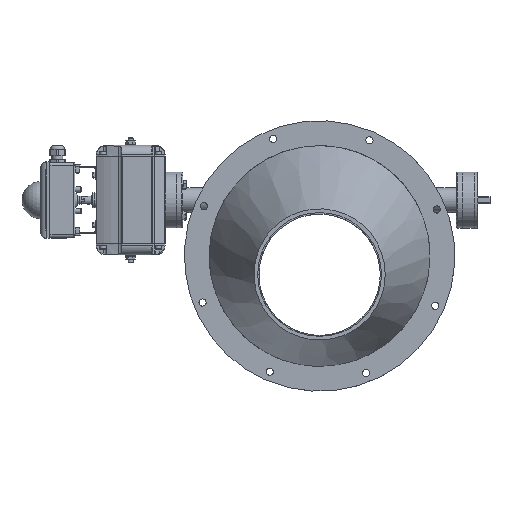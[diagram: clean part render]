
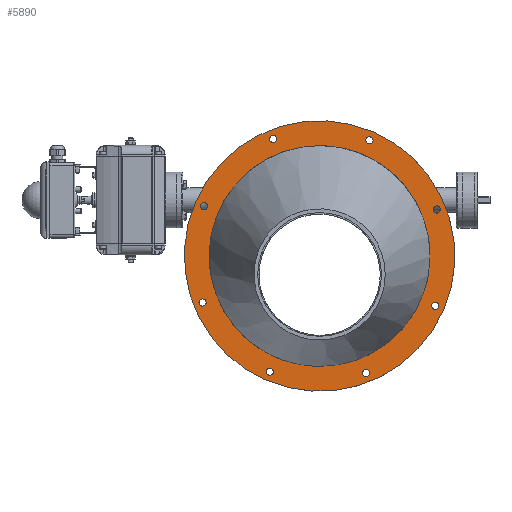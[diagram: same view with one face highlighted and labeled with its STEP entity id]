
A CAD part, top view. The second image highlights one B-rep face of the part: STEP entity #5890.
In plain terms, the highlighted planar face has unit normal (0, 0, 1) as drawn and (0, 0, -1) by its records, which use the part's own axes.
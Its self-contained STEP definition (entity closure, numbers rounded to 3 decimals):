
#5397=CARTESIAN_POINT('',(-5.727,-202.5,0.0));
#5398=VERTEX_POINT('',#5397);
#5399=CARTESIAN_POINT('',(0.023,-202.5,0.0));
#5400=DIRECTION('',(0.0,0.0,1.0));
#5401=DIRECTION('',(1.0,0.0,0.0));
#5402=AXIS2_PLACEMENT_3D('',#5399,#5400,#5401);
#5403=CIRCLE('',#5402,5.75);
#5404=EDGE_CURVE('',#5398,#5398,#5403,.T.);
#5446=CARTESIAN_POINT('',(137.455,-143.173,0.0));
#5447=VERTEX_POINT('',#5446);
#5448=CARTESIAN_POINT('',(143.205,-143.173,0.0));
#5449=DIRECTION('',(0.0,0.0,1.0));
#5450=DIRECTION('',(1.0,0.0,0.0));
#5451=AXIS2_PLACEMENT_3D('',#5448,#5449,#5450);
#5452=CIRCLE('',#5451,5.75);
#5453=EDGE_CURVE('',#5447,#5447,#5452,.T.);
#5495=CARTESIAN_POINT('',(196.75,0.023,0.0));
#5496=VERTEX_POINT('',#5495);
#5497=CARTESIAN_POINT('',(202.5,0.023,0.0));
#5498=DIRECTION('',(0.0,0.0,1.0));
#5499=DIRECTION('',(1.0,0.0,0.0));
#5500=AXIS2_PLACEMENT_3D('',#5497,#5498,#5499);
#5501=CIRCLE('',#5500,5.75);
#5502=EDGE_CURVE('',#5496,#5496,#5501,.T.);
#5544=CARTESIAN_POINT('',(137.423,143.205,0.0));
#5545=VERTEX_POINT('',#5544);
#5546=CARTESIAN_POINT('',(143.173,143.205,0.0));
#5547=DIRECTION('',(0.0,0.0,1.0));
#5548=DIRECTION('',(1.0,0.0,0.0));
#5549=AXIS2_PLACEMENT_3D('',#5546,#5547,#5548);
#5550=CIRCLE('',#5549,5.75);
#5551=EDGE_CURVE('',#5545,#5545,#5550,.T.);
#5593=CARTESIAN_POINT('',(-148.923,-143.205,0.0));
#5594=VERTEX_POINT('',#5593);
#5595=CARTESIAN_POINT('',(-143.173,-143.205,0.0));
#5596=DIRECTION('',(0.0,0.0,1.0));
#5597=DIRECTION('',(1.0,0.0,0.0));
#5598=AXIS2_PLACEMENT_3D('',#5595,#5596,#5597);
#5599=CIRCLE('',#5598,5.75);
#5600=EDGE_CURVE('',#5594,#5594,#5599,.T.);
#5642=CARTESIAN_POINT('',(-208.25,-0.023,0.0));
#5643=VERTEX_POINT('',#5642);
#5644=CARTESIAN_POINT('',(-202.5,-0.023,0.0));
#5645=DIRECTION('',(0.0,0.0,1.0));
#5646=DIRECTION('',(1.0,0.0,0.0));
#5647=AXIS2_PLACEMENT_3D('',#5644,#5645,#5646);
#5648=CIRCLE('',#5647,5.75);
#5649=EDGE_CURVE('',#5643,#5643,#5648,.T.);
#5691=CARTESIAN_POINT('',(-148.955,143.173,0.0));
#5692=VERTEX_POINT('',#5691);
#5693=CARTESIAN_POINT('',(-143.205,143.173,0.0));
#5694=DIRECTION('',(0.0,0.0,1.0));
#5695=DIRECTION('',(1.0,0.0,0.0));
#5696=AXIS2_PLACEMENT_3D('',#5693,#5694,#5695);
#5697=CIRCLE('',#5696,5.75);
#5698=EDGE_CURVE('',#5692,#5692,#5697,.T.);
#5740=CARTESIAN_POINT('',(-5.773,202.5,0.0));
#5741=VERTEX_POINT('',#5740);
#5742=CARTESIAN_POINT('',(-0.023,202.5,0.0));
#5743=DIRECTION('',(0.0,0.0,1.0));
#5744=DIRECTION('',(1.0,0.0,0.0));
#5745=AXIS2_PLACEMENT_3D('',#5742,#5743,#5744);
#5746=CIRCLE('',#5745,5.75);
#5747=EDGE_CURVE('',#5741,#5741,#5746,.T.);
#5779=CARTESIAN_POINT('',(177.5,0.,0.0));
#5780=VERTEX_POINT('',#5779);
#5781=CARTESIAN_POINT('',(0.0,0.0,0.0));
#5782=DIRECTION('',(0.0,0.0,1.0));
#5783=DIRECTION('',(-1.0,0.0,0.0));
#5784=AXIS2_PLACEMENT_3D('',#5781,#5782,#5783);
#5785=CIRCLE('',#5784,177.5);
#5786=EDGE_CURVE('',#5780,#5780,#5785,.T.);
#5807=CARTESIAN_POINT('',(217.5,0.,0.0));
#5808=VERTEX_POINT('',#5807);
#5809=CARTESIAN_POINT('',(0.0,0.0,0.0));
#5810=DIRECTION('',(0.0,0.0,-1.0));
#5811=DIRECTION('',(-1.0,0.0,0.0));
#5812=AXIS2_PLACEMENT_3D('',#5809,#5810,#5811);
#5813=CIRCLE('',#5812,217.5);
#5814=EDGE_CURVE('',#5808,#5808,#5813,.T.);
#5855=CARTESIAN_POINT('',(0.0,0.0,0.0));
#5856=DIRECTION('',(0.0,0.0,-1.0));
#5857=DIRECTION('',(-1.0,0.0,0.0));
#5858=AXIS2_PLACEMENT_3D('',#5855,#5856,#5857);
#5859=PLANE('',#5858);
#5860=ORIENTED_EDGE('',*,*,#5814,.T.);
#5861=EDGE_LOOP('',(#5860));
#5862=FACE_OUTER_BOUND('',#5861,.T.);
#5863=ORIENTED_EDGE('',*,*,#5404,.T.);
#5864=EDGE_LOOP('',(#5863));
#5865=FACE_BOUND('',#5864,.T.);
#5866=ORIENTED_EDGE('',*,*,#5453,.T.);
#5867=EDGE_LOOP('',(#5866));
#5868=FACE_BOUND('',#5867,.T.);
#5869=ORIENTED_EDGE('',*,*,#5502,.T.);
#5870=EDGE_LOOP('',(#5869));
#5871=FACE_BOUND('',#5870,.T.);
#5872=ORIENTED_EDGE('',*,*,#5551,.T.);
#5873=EDGE_LOOP('',(#5872));
#5874=FACE_BOUND('',#5873,.T.);
#5875=ORIENTED_EDGE('',*,*,#5600,.T.);
#5876=EDGE_LOOP('',(#5875));
#5877=FACE_BOUND('',#5876,.T.);
#5878=ORIENTED_EDGE('',*,*,#5649,.T.);
#5879=EDGE_LOOP('',(#5878));
#5880=FACE_BOUND('',#5879,.T.);
#5881=ORIENTED_EDGE('',*,*,#5698,.T.);
#5882=EDGE_LOOP('',(#5881));
#5883=FACE_BOUND('',#5882,.T.);
#5884=ORIENTED_EDGE('',*,*,#5747,.T.);
#5885=EDGE_LOOP('',(#5884));
#5886=FACE_BOUND('',#5885,.T.);
#5887=ORIENTED_EDGE('',*,*,#5786,.T.);
#5888=EDGE_LOOP('',(#5887));
#5889=FACE_BOUND('',#5888,.T.);
#5890=ADVANCED_FACE('',(#5862,#5865,#5868,#5871,#5874,#5877,#5880,#5883,#5886,#5889),#5859,.T.);
